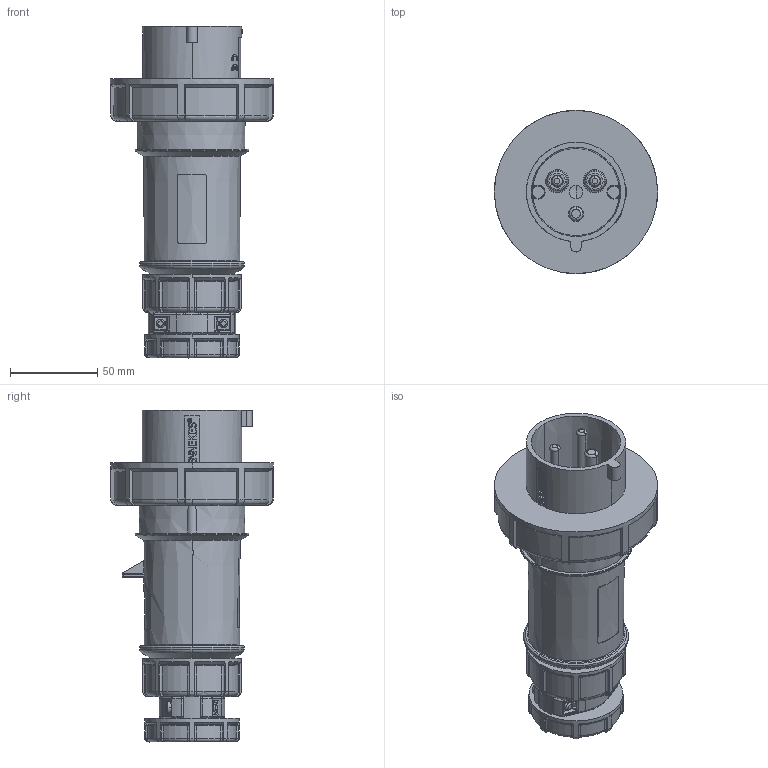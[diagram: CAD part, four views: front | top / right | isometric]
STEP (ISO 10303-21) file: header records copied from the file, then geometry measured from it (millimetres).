
FILE_DESCRIPTION((''),'2;1');
FILE_NAME('3830_SW0001','2018-02-09T',('gisse'),('MENNEKES'),'PRO/ENGINEER BY PARAMETRIC TECHNOLOGY CORPORATION, 2015440','PRO/ENGINEER BY PARAMETRIC TECHNOLOGY CORPORATION, 2015440','');
FILE_SCHEMA(('AUTOMOTIVE_DESIGN { 1 0 10303 214 1 1 1 1 }'));
Products named in the file (1): 3830_SW0001
Bounding box: 93.5 x 93.5 x 190.2 mm (x, y, z)
Volume: 456683.9 mm3; surface area: 68178.8 mm2
Topology: 1 solids, 1 shells, 1148 faces, 2999 edges, 1896 vertices
Faces by surface type: plane 549, cylinder 260, torus 122, bspline 92, cone 71, sphere 54
Entity records: 59750 total; most frequent: CARTESIAN_POINT 13780, ORIENTED_EDGE 5994, DIRECTION 5055, PRESENTATION_STYLE_ASSIGNMENT 3819, STYLED_ITEM 2998, CURVE_STYLE 2997, EDGE_CURVE 2997, AXIS2_PLACEMENT_3D 1967
